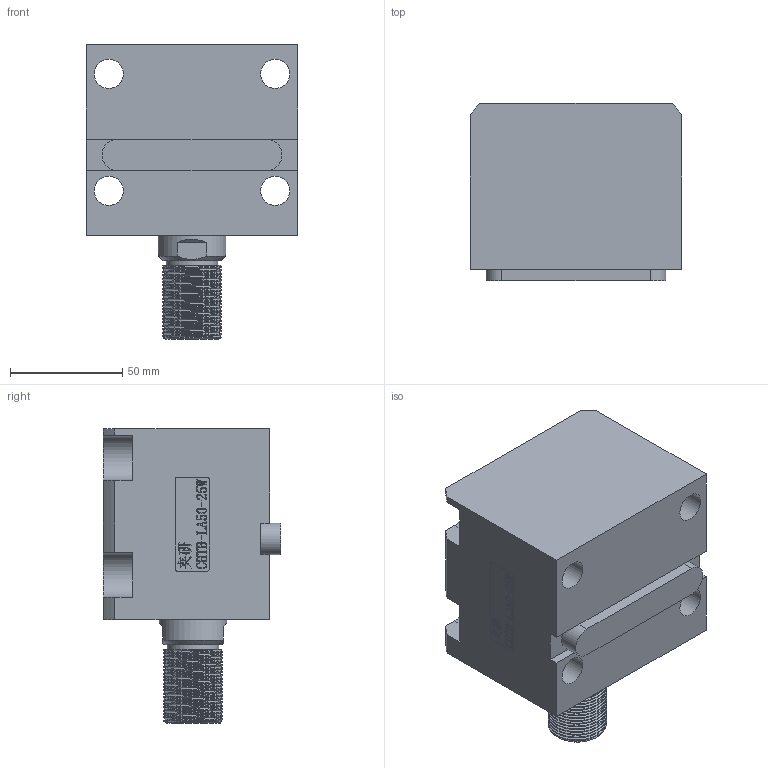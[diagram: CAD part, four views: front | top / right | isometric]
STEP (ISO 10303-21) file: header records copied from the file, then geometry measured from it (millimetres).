
FILE_DESCRIPTION(/* description */ (''),/* implementation_level */ '2;1');
FILE_NAME(/* name */ 'CHTB-LA50-25W.stp',/* time_stamp */ '2022-04-29T17:57:50+08:00',/* author */ (''),/* organization */ (''),/* preprocessor_version */ 'ST-DEVELOPER v16.7',/* originating_system */ 'SIEMENS PLM Software NX 12.0',/* authorisation */ '');
FILE_SCHEMA (('AUTOMOTIVE_DESIGN { 1 0 10303 214 3 1 1 1 }'));
Length unit declared in the file: millimetre
Products named in the file (1): CHTB-LA50-25W
Bounding box: 94 x 79 x 131 mm (x, y, z)
Volume: 530239 mm3; surface area: 101406.2 mm2
Topology: 3 solids, 3 shells, 440 faces, 1296 edges, 903 vertices
Faces by surface type: plane 291, extrusion 78, cylinder 40, torus 11, cone 10, bspline 10
Full cylindrical faces by diameter (mm): 4 x2, 5 x2, 10.7 x2, 13 x4, 23 x1, 30 x2, 39 x1, 46 x1, 50 x5, 59 x1
Entity records: 23887 total; most frequent: CARTESIAN_POINT 10702, ORIENTED_EDGE 2486, DIRECTION 1799, EDGE_CURVE 1243, VECTOR 895, VERTEX_POINT 895, LINE 817, EDGE_LOOP 538
